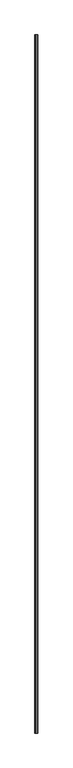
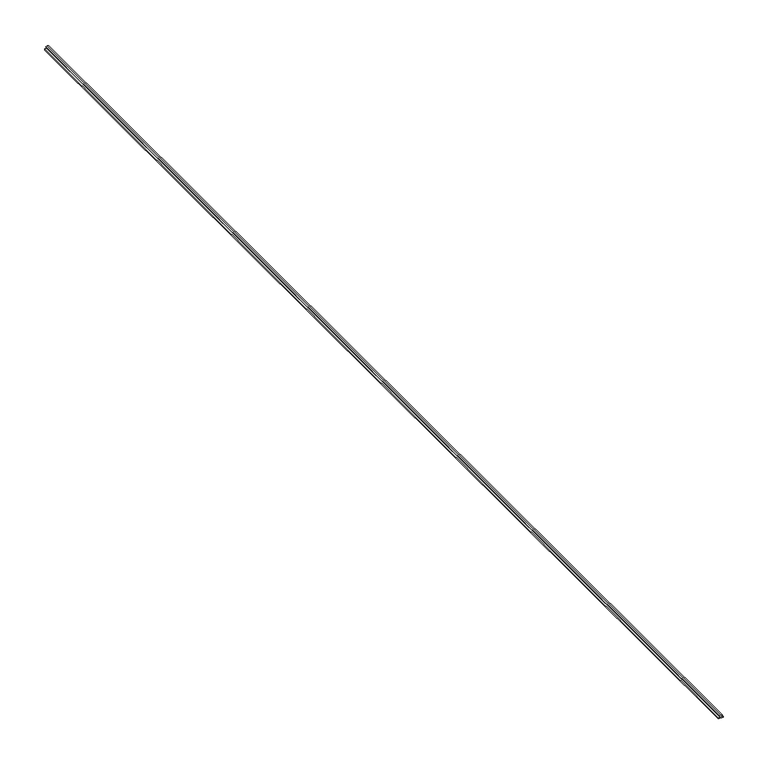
"""IFC4 building model written with IfcOpenShell, lengths in millimetres: proxy geometry, HAFELE^BUS BAR_ALUMINUM-BUS BAR (MOD LENGTH 59)."""

from ifc_helpers import new_model, si_unit, frame, origin, place, context, project, spatial, polyline, outline, extrude, source, transform, mapped, element, save


def generic_models_7eb4e70c(model_context):
    return source(origin(), model_context, "Body", "SweptSolid", [
        extrude(outline(polyline([(1.5875, 2.159), (1.5875, 0.0), (0.0, 0.0), (0.0, 6.35), (1.5875, 6.35), (1.5875, 4.191), (3.96875, 5.2149375), (4.7625, 3.175), (3.96875, 1.1350625), (1.5875, 2.159)])), frame((0.0, 0.0, 0.0), z_axis=(0.0, 1.0, 0.0), x_axis=(0.0, 0.0, 1.0)), (0.0, 0.0, 1.0), 1498.6),
    ])


if __name__ == "__main__":
    model = new_model("IFC4")
    model_context = context("Model", 3, world=origin())
    ifc_project = project(units=[si_unit("LENGTHUNIT", "METRE", prefix="MILLI")], contexts=[model_context])
    site = spatial("IfcSite", under=ifc_project)
    building = spatial("IfcBuilding", under=site)
    placement = place(None, origin())
    generic_models_shape = generic_models_7eb4e70c(model_context)
    element("IfcBuildingElementProxy", 1, Name="HAFELE^BUS BAR_ALUMINUM-BUS BAR (MOD LENGTH 59)", ObjectType="HAFELE^BUS BAR_ALUMINUM-BUS BAR (MOD LENGTH 59)", at=placement, inside=building, context=model_context, shape_type="MappedRepresentation", body=[
        mapped(generic_models_shape, transform((0.0, 0.0, 0.0), x_axis=(1.0, 0.0, 0.0), y_axis=(0.0, 1.0, 0.0), z_axis=(0.0, 0.0, 1.0))),
    ])
    save(model, "model.ifc")
